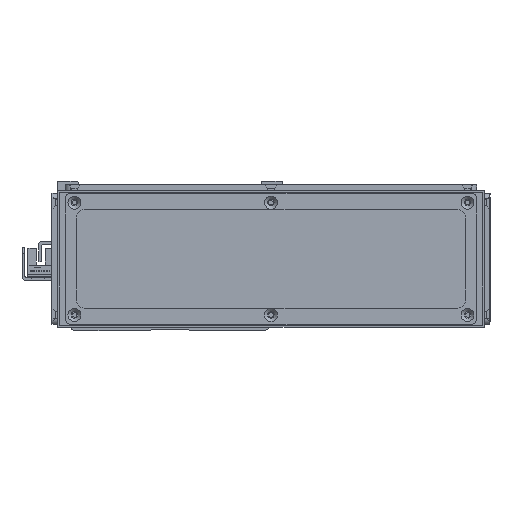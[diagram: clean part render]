
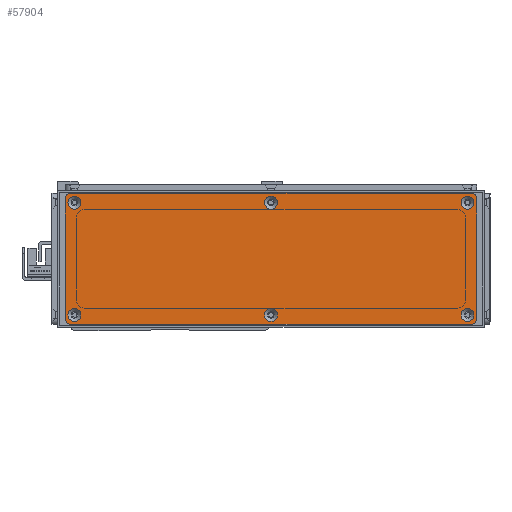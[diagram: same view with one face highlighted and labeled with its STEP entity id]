
A CAD part, front view. The second image highlights one B-rep face of the part: STEP entity #57904.
In plain terms, the highlighted planar face has unit normal (0, -1, 0).
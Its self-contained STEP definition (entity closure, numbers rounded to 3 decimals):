
#2457=FACE_BOUND('',#9903,.T.);
#2458=FACE_BOUND('',#9904,.T.);
#2459=FACE_BOUND('',#9905,.T.);
#2460=FACE_BOUND('',#9906,.T.);
#2461=FACE_BOUND('',#9907,.T.);
#2462=FACE_BOUND('',#9908,.T.);
#3725=CIRCLE('',#62397,3.45);
#3728=CIRCLE('',#62402,3.45);
#3731=CIRCLE('',#62407,3.45);
#3734=CIRCLE('',#62412,3.45);
#3737=CIRCLE('',#62417,3.45);
#3740=CIRCLE('',#62422,3.45);
#3743=CIRCLE('',#62427,3.);
#3745=CIRCLE('',#62430,3.);
#3746=CIRCLE('',#62431,3.);
#3747=CIRCLE('',#62432,3.);
#6581=FACE_OUTER_BOUND('',#9902,.T.);
#9902=EDGE_LOOP('',(#52311,#52312,#52313,#52314,#52315,#52316,#52317,#52318));
#9903=EDGE_LOOP('',(#52319));
#9904=EDGE_LOOP('',(#52320));
#9905=EDGE_LOOP('',(#52321));
#9906=EDGE_LOOP('',(#52322));
#9907=EDGE_LOOP('',(#52323));
#9908=EDGE_LOOP('',(#52324));
#16370=LINE('',#96550,#22887);
#16371=LINE('',#96554,#22888);
#16372=LINE('',#96558,#22889);
#16373=LINE('',#96561,#22890);
#22887=VECTOR('',#77015,10.);
#22888=VECTOR('',#77018,10.);
#22889=VECTOR('',#77021,10.);
#22890=VECTOR('',#77024,10.);
#28343=VERTEX_POINT('',#96480);
#28346=VERTEX_POINT('',#96490);
#28349=VERTEX_POINT('',#96500);
#28352=VERTEX_POINT('',#96510);
#28355=VERTEX_POINT('',#96520);
#28358=VERTEX_POINT('',#96530);
#28361=VERTEX_POINT('',#96540);
#28362=VERTEX_POINT('',#96541);
#28365=VERTEX_POINT('',#96549);
#28366=VERTEX_POINT('',#96551);
#28367=VERTEX_POINT('',#96553);
#28368=VERTEX_POINT('',#96555);
#28369=VERTEX_POINT('',#96557);
#28370=VERTEX_POINT('',#96559);
#36359=EDGE_CURVE('',#28343,#28343,#3725,.T.);
#36364=EDGE_CURVE('',#28346,#28346,#3728,.T.);
#36369=EDGE_CURVE('',#28349,#28349,#3731,.T.);
#36374=EDGE_CURVE('',#28352,#28352,#3734,.T.);
#36379=EDGE_CURVE('',#28355,#28355,#3737,.T.);
#36384=EDGE_CURVE('',#28358,#28358,#3740,.T.);
#36389=EDGE_CURVE('',#28361,#28362,#3743,.T.);
#36393=EDGE_CURVE('',#28361,#28365,#16370,.T.);
#36394=EDGE_CURVE('',#28366,#28365,#3745,.T.);
#36395=EDGE_CURVE('',#28366,#28367,#16371,.T.);
#36396=EDGE_CURVE('',#28368,#28367,#3746,.T.);
#36397=EDGE_CURVE('',#28368,#28369,#16372,.T.);
#36398=EDGE_CURVE('',#28370,#28369,#3747,.T.);
#36399=EDGE_CURVE('',#28370,#28362,#16373,.T.);
#52311=ORIENTED_EDGE('',*,*,#36389,.F.);
#52312=ORIENTED_EDGE('',*,*,#36393,.T.);
#52313=ORIENTED_EDGE('',*,*,#36394,.F.);
#52314=ORIENTED_EDGE('',*,*,#36395,.T.);
#52315=ORIENTED_EDGE('',*,*,#36396,.F.);
#52316=ORIENTED_EDGE('',*,*,#36397,.T.);
#52317=ORIENTED_EDGE('',*,*,#36398,.F.);
#52318=ORIENTED_EDGE('',*,*,#36399,.T.);
#52319=ORIENTED_EDGE('',*,*,#36359,.T.);
#52320=ORIENTED_EDGE('',*,*,#36364,.T.);
#52321=ORIENTED_EDGE('',*,*,#36369,.T.);
#52322=ORIENTED_EDGE('',*,*,#36374,.T.);
#52323=ORIENTED_EDGE('',*,*,#36379,.T.);
#52324=ORIENTED_EDGE('',*,*,#36384,.T.);
#55093=PLANE('',#62429);
#57904=ADVANCED_FACE('',(#6581,#2457,#2458,#2459,#2460,#2461,#2462),#55093,
 .T.);
#62397=AXIS2_PLACEMENT_3D('',#96481,#76935,#76936);
#62402=AXIS2_PLACEMENT_3D('',#96491,#76947,#76948);
#62407=AXIS2_PLACEMENT_3D('',#96501,#76959,#76960);
#62412=AXIS2_PLACEMENT_3D('',#96511,#76971,#76972);
#62417=AXIS2_PLACEMENT_3D('',#96521,#76983,#76984);
#62422=AXIS2_PLACEMENT_3D('',#96531,#76995,#76996);
#62427=AXIS2_PLACEMENT_3D('',#96542,#77007,#77008);
#62429=AXIS2_PLACEMENT_3D('',#96548,#77013,#77014);
#62430=AXIS2_PLACEMENT_3D('',#96552,#77016,#77017);
#62431=AXIS2_PLACEMENT_3D('',#96556,#77019,#77020);
#62432=AXIS2_PLACEMENT_3D('',#96560,#77022,#77023);
#76935=DIRECTION('center_axis',(0.,1.,0.));
#76936=DIRECTION('ref_axis',(1.,0.,0.));
#76947=DIRECTION('center_axis',(0.,1.,0.));
#76948=DIRECTION('ref_axis',(1.,0.,0.));
#76959=DIRECTION('center_axis',(0.,1.,0.));
#76960=DIRECTION('ref_axis',(1.,0.,0.));
#76971=DIRECTION('center_axis',(0.,1.,0.));
#76972=DIRECTION('ref_axis',(1.,0.,0.));
#76983=DIRECTION('center_axis',(0.,1.,0.));
#76984=DIRECTION('ref_axis',(1.,0.,0.));
#76995=DIRECTION('center_axis',(0.,1.,0.));
#76996=DIRECTION('ref_axis',(1.,0.,0.));
#77007=DIRECTION('center_axis',(0.,1.,0.));
#77008=DIRECTION('ref_axis',(-0.707,0.,0.707));
#77013=DIRECTION('center_axis',(0.,-1.,0.));
#77014=DIRECTION('ref_axis',(0.,0.,-1.));
#77015=DIRECTION('',(0.,0.,-1.));
#77016=DIRECTION('center_axis',(0.,1.,0.));
#77017=DIRECTION('ref_axis',(-0.707,0.,-0.707));
#77018=DIRECTION('',(1.,0.,0.));
#77019=DIRECTION('center_axis',(0.,1.,0.));
#77020=DIRECTION('ref_axis',(0.707,0.,-0.707));
#77021=DIRECTION('',(0.,0.,1.));
#77022=DIRECTION('center_axis',(0.,1.,0.));
#77023=DIRECTION('ref_axis',(0.707,0.,0.707));
#77024=DIRECTION('',(-1.,0.,0.));
#96480=CARTESIAN_POINT('',(101.55,-1.5,30.));
#96481=CARTESIAN_POINT('Origin',(105.,-1.5,30.));
#96490=CARTESIAN_POINT('',(-3.45,-1.5,-30.));
#96491=CARTESIAN_POINT('Origin',(0.,-1.5,-30.));
#96500=CARTESIAN_POINT('',(-108.45,-1.5,30.));
#96501=CARTESIAN_POINT('Origin',(-105.,-1.5,30.));
#96510=CARTESIAN_POINT('',(-108.45,-1.5,-30.));
#96511=CARTESIAN_POINT('Origin',(-105.,-1.5,-30.));
#96520=CARTESIAN_POINT('',(-3.45,-1.5,30.));
#96521=CARTESIAN_POINT('Origin',(0.,-1.5,30.));
#96530=CARTESIAN_POINT('',(101.55,-1.5,-30.));
#96531=CARTESIAN_POINT('Origin',(105.,-1.5,-30.));
#96540=CARTESIAN_POINT('',(-110.,-1.5,32.));
#96541=CARTESIAN_POINT('',(-107.,-1.5,35.));
#96542=CARTESIAN_POINT('Origin',(-107.,-1.5,32.));
#96548=CARTESIAN_POINT('Origin',(0.,-1.5,0.));
#96549=CARTESIAN_POINT('',(-110.,-1.5,-32.));
#96550=CARTESIAN_POINT('',(-110.,-1.5,35.));
#96551=CARTESIAN_POINT('',(-107.,-1.5,-35.));
#96552=CARTESIAN_POINT('Origin',(-107.,-1.5,-32.));
#96553=CARTESIAN_POINT('',(107.,-1.5,-35.));
#96554=CARTESIAN_POINT('',(-110.,-1.5,-35.));
#96555=CARTESIAN_POINT('',(110.,-1.5,-32.));
#96556=CARTESIAN_POINT('Origin',(107.,-1.5,-32.));
#96557=CARTESIAN_POINT('',(110.,-1.5,32.));
#96558=CARTESIAN_POINT('',(110.,-1.5,-35.));
#96559=CARTESIAN_POINT('',(107.,-1.5,35.));
#96560=CARTESIAN_POINT('Origin',(107.,-1.5,32.));
#96561=CARTESIAN_POINT('',(110.,-1.5,35.));
